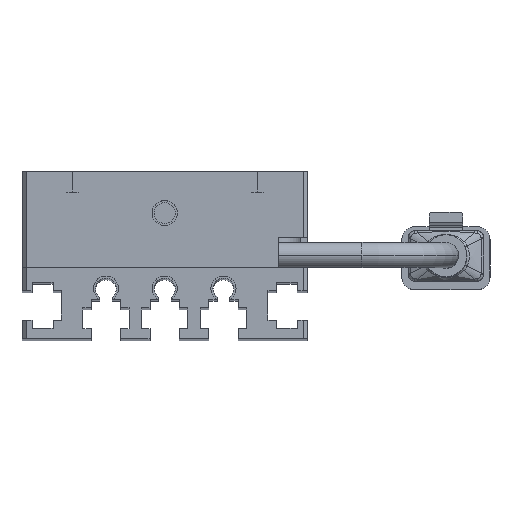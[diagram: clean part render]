
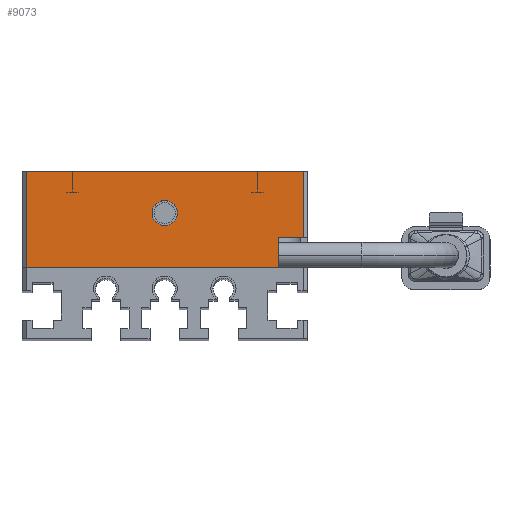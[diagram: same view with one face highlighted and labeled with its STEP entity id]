
A CAD part, top view. The second image highlights one B-rep face of the part: STEP entity #9073.
In plain terms, the highlighted planar face has unit normal (0, 0, 1) as drawn and (0, 0, -1) by its records, which use the part's own axes.
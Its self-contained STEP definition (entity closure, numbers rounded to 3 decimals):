
#247 = DIRECTION ( 'NONE',  ( -1., 0., 0. ) ) ;
#787 = DIRECTION ( 'NONE',  ( 0., 0., -1. ) ) ;
#806 = VECTOR ( 'NONE', #5397, 1000. ) ;
#935 = DIRECTION ( 'NONE',  ( -1., 0., 0. ) ) ;
#1287 = ORIENTED_EDGE ( 'NONE', *, *, #13894, .T. ) ;
#1333 = EDGE_CURVE ( 'NONE', #13801, #4206, #5824, .T. ) ;
#1385 = ORIENTED_EDGE ( 'NONE', *, *, #4256, .T. ) ;
#1540 = EDGE_LOOP ( 'NONE', ( #12197, #5830, #1385, #7470, #1287, #14156 ) ) ;
#1680 = VERTEX_POINT ( 'NONE', #3122 ) ;
#1901 = FACE_BOUND ( 'NONE', #12192, .T. ) ;
#2043 = VECTOR ( 'NONE', #13392, 1000. ) ;
#2057 = LINE ( 'NONE', #12342, #2043 ) ;
#2333 = VECTOR ( 'NONE', #3510, 1000. ) ;
#2652 = EDGE_CURVE ( 'NONE', #4206, #1680, #14084, .T. ) ;
#2762 = CARTESIAN_POINT ( 'NONE',  ( -17., 0., 0. ) ) ;
#2891 = VERTEX_POINT ( 'NONE', #11896 ) ;
#3122 = CARTESIAN_POINT ( 'NONE',  ( 16.5, 0., 0. ) ) ;
#3510 = DIRECTION ( 'NONE',  ( 0., -1., 0. ) ) ;
#3606 = DIRECTION ( 'NONE',  ( -1., 0., 0. ) ) ;
#3656 = CARTESIAN_POINT ( 'NONE',  ( 0., 6.5, 0. ) ) ;
#4206 = VERTEX_POINT ( 'NONE', #12332 ) ;
#4256 = EDGE_CURVE ( 'NONE', #10371, #11975, #10973, .T. ) ;
#4723 = DIRECTION ( 'NONE',  ( 0., 0., -1. ) ) ;
#5160 = VERTEX_POINT ( 'NONE', #5608 ) ;
#5243 = EDGE_CURVE ( 'NONE', #5160, #11975, #8373, .T. ) ;
#5397 = DIRECTION ( 'NONE',  ( 0., 1., 0. ) ) ;
#5479 = FACE_OUTER_BOUND ( 'NONE', #1540, .T. ) ;
#5608 = CARTESIAN_POINT ( 'NONE',  ( 16.5, 11.5, 0. ) ) ;
#5824 = LINE ( 'NONE', #13794, #2333 ) ;
#5830 = ORIENTED_EDGE ( 'NONE', *, *, #12679, .F. ) ;
#5905 = DIRECTION ( 'NONE',  ( -1., 0., 0. ) ) ;
#6194 = DIRECTION ( 'NONE',  ( 1., 0., 0. ) ) ;
#6457 = CARTESIAN_POINT ( 'NONE',  ( -17., 11.5, 0. ) ) ;
#6583 = CARTESIAN_POINT ( 'NONE',  ( -16.5, 11.5, 0. ) ) ;
#6935 = ORIENTED_EDGE ( 'NONE', *, *, #10636, .F. ) ;
#7470 = ORIENTED_EDGE ( 'NONE', *, *, #5243, .F. ) ;
#7543 = ORIENTED_EDGE ( 'NONE', *, *, #10999, .F. ) ;
#7744 = DIRECTION ( 'NONE',  ( 0., -1., 0. ) ) ;
#7815 = LINE ( 'NONE', #11446, #8264 ) ;
#8264 = VECTOR ( 'NONE', #7744, 1000. ) ;
#8373 = LINE ( 'NONE', #12975, #14255 ) ;
#9073 = ADVANCED_FACE ( 'NONE', ( #5479, #1901 ), #11131, .T. ) ;
#10371 = VERTEX_POINT ( 'NONE', #12860 ) ;
#10525 = CARTESIAN_POINT ( 'NONE',  ( 0., 6.5, 0. ) ) ;
#10636 = EDGE_CURVE ( 'NONE', #2891, #12291, #14366, .T. ) ;
#10973 = LINE ( 'NONE', #13290, #806 ) ;
#10999 = EDGE_CURVE ( 'NONE', #12291, #2891, #11736, .T. ) ;
#11131 = PLANE ( 'NONE',  #11455 ) ;
#11446 = CARTESIAN_POINT ( 'NONE',  ( 16.5, 0., 0. ) ) ;
#11455 = AXIS2_PLACEMENT_3D ( 'NONE', #6457, #787, #935 ) ;
#11736 = CIRCLE ( 'NONE', #13662, 1.5 ) ;
#11896 = CARTESIAN_POINT ( 'NONE',  ( 1.5, 6.5, 0. ) ) ;
#11968 = CARTESIAN_POINT ( 'NONE',  ( -13.5, 3.6, 0. ) ) ;
#11975 = VERTEX_POINT ( 'NONE', #6583 ) ;
#12192 = EDGE_LOOP ( 'NONE', ( #7543, #6935 ) ) ;
#12197 = ORIENTED_EDGE ( 'NONE', *, *, #1333, .F. ) ;
#12291 = VERTEX_POINT ( 'NONE', #12897 ) ;
#12332 = CARTESIAN_POINT ( 'NONE',  ( -13.5, 0., 0. ) ) ;
#12342 = CARTESIAN_POINT ( 'NONE',  ( -16.5, 3.6, 0. ) ) ;
#12679 = EDGE_CURVE ( 'NONE', #10371, #13801, #2057, .T. ) ;
#12860 = CARTESIAN_POINT ( 'NONE',  ( -16.5, 3.6, 0. ) ) ;
#12897 = CARTESIAN_POINT ( 'NONE',  ( -1.5, 6.5, 0. ) ) ;
#12975 = CARTESIAN_POINT ( 'NONE',  ( -17., 11.5, 0. ) ) ;
#13290 = CARTESIAN_POINT ( 'NONE',  ( -16.5, 11.5, 0. ) ) ;
#13392 = DIRECTION ( 'NONE',  ( 1., 0., 0. ) ) ;
#13662 = AXIS2_PLACEMENT_3D ( 'NONE', #3656, #13797, #247 ) ;
#13794 = CARTESIAN_POINT ( 'NONE',  ( -13.5, 3., 0. ) ) ;
#13797 = DIRECTION ( 'NONE',  ( 0., 0., -1. ) ) ;
#13801 = VERTEX_POINT ( 'NONE', #11968 ) ;
#13894 = EDGE_CURVE ( 'NONE', #5160, #1680, #7815, .T. ) ;
#14021 = VECTOR ( 'NONE', #6194, 1000. ) ;
#14084 = LINE ( 'NONE', #2762, #14021 ) ;
#14124 = AXIS2_PLACEMENT_3D ( 'NONE', #10525, #4723, #3606 ) ;
#14156 = ORIENTED_EDGE ( 'NONE', *, *, #2652, .F. ) ;
#14255 = VECTOR ( 'NONE', #5905, 1000. ) ;
#14366 = CIRCLE ( 'NONE', #14124, 1.5 ) ;
